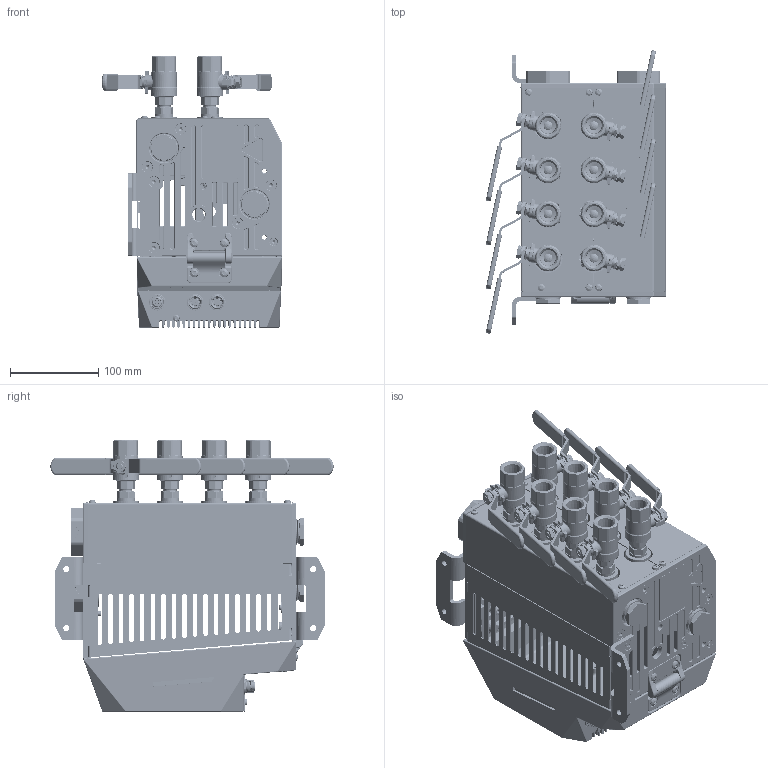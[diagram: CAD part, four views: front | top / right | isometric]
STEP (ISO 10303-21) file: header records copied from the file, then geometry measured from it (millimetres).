
FILE_DESCRIPTION (( 'STEP AP214' ), '1' );
FILE_NAME ('HB-FX1XXR61-4-ZH.STEP', '2026-03-02T08:57:19', ( '' ), ( '' ), 'SwSTEP 2.0', 'SolidWorks 2023', '' );
FILE_SCHEMA (( 'AUTOMOTIVE_DESIGN' ));
Length unit declared in the file: millimetre
Products named in the file (26): Kopie von K8534-Hülle Teil2^K8534-Hülle kompl_4-Fach HB-Therm; Kopie von 29796-X^Kopie von K8534-Hülle Teil2_K8534-Hülle kompl_29796-1; Kopie von 29714^Kopie von K8534-Hülle Teil2_K8534-Hülle kompl; Kopie von 29813-X^Kopie von K8534-Hülle Teil3_K8534-Hülle kompl_01-mit Beschriftung; 29857_00 - geschlossen; Kopie von 29733-X^Kopie von K8534-Hülle Teil2_K8534-Hülle kompl; Kopie von 29819-X^Kopie von K8534-Hülle Teil3_K8534-Hülle kompl_01-mit Beschriftung; HB-FX1XXR61-4-ZH; Kopie von K8534-Hülle RECHTS^Kopie von K8534-Hülle Teil3_K8534-Hülle kompl_4-FACH RECHTS; 29788_Geschlossen; Kopie von K8534-Hülle Teil3^K8534-Hülle kompl_4-FACH-RECHTS HB-Therm; Kopie von Kopie von 29730^Kopie von K8534-Hülle Teil2_K8534-Hülle kompl_00; Kopie von 28862^Kopie von K8534-Hülle Teil2_K8534-Hülle kompl_M5x12; Kopie von 28706^Kopie von K8534-Hülle Teil2_K8534-Hülle kompl_180°; Kopie von 29827^Kopie von K8534-Hülle Teil2_K8534-Hülle kompl; Kopie von B3061620^Kopie von K8534-Hülle Teil2_K8534-Hülle kompl_M4x12; Kopie von 29734-X^Kopie von K8534-Hülle Teil3_K8534-Hülle kompl_00; Kopie von Kopie von 24568^Kopie von K8534-Hülle Teil3_K8534-Hülle kompl_00; KX508-2_1^Kopie von 28706_Kopie von K8534-Hülle Teil2_K8534-Hülle kompl; Kopie von 29824-X^Kopie von K8534-Hülle Teil3_K8534-Hülle kompl_00; Kopie (2) von B3061620^Kopie von K8534-Hülle Teil2_K8534-Hülle kompl_M4x12; 29669_00; KX508-2_2^Kopie von 28706_Kopie von K8534-Hülle Teil2_K8534-Hülle kompl; 29702_A15x1-A2; Kopie von 29730^Kopie von K8534-Hülle Teil3_K8534-Hülle kompl_00; KX508-2_3^Kopie von 28706_Kopie von K8534-Hülle Teil2_K8534-Hülle kompl
Assembly tree (43 placements, depth 4):
  HB-FX1XXR61-4-ZH
    Kopie von K8534-Hülle Teil3^K8534-Hülle kompl_4-FACH-RECHTS HB-Therm
      Kopie von 29734-X^Kopie von K8534-Hülle Teil3_K8534-Hülle kompl_00  x2
      Kopie von 29730^Kopie von K8534-Hülle Teil3_K8534-Hülle kompl_00  x4
      Kopie von K8534-Hülle RECHTS^Kopie von K8534-Hülle Teil3_K8534-Hülle kompl_4-FACH RECHTS
      Kopie von 29819-X^Kopie von K8534-Hülle Teil3_K8534-Hülle kompl_01-mit Beschriftung
      Kopie von 29813-X^Kopie von K8534-Hülle Teil3_K8534-Hülle kompl_01-mit Beschriftung
      Kopie von 29824-X^Kopie von K8534-Hülle Teil3_K8534-Hülle kompl_00
      Kopie von Kopie von 24568^Kopie von K8534-Hülle Teil3_K8534-Hülle kompl_00  x2
    Kopie von K8534-Hülle Teil2^K8534-Hülle kompl_4-Fach HB-Therm
      Kopie von 29827^Kopie von K8534-Hülle Teil2_K8534-Hülle kompl  x2
      Kopie von 29714^Kopie von K8534-Hülle Teil2_K8534-Hülle kompl
      Kopie von 28862^Kopie von K8534-Hülle Teil2_K8534-Hülle kompl_M5x12  x4
      Kopie von 28706^Kopie von K8534-Hülle Teil2_K8534-Hülle kompl_180°
        KX508-2_1^Kopie von 28706_Kopie von K8534-Hülle Teil2_K8534-Hülle kompl
        KX508-2_2^Kopie von 28706_Kopie von K8534-Hülle Teil2_K8534-Hülle kompl
        KX508-2_3^Kopie von 28706_Kopie von K8534-Hülle Teil2_K8534-Hülle kompl
      Kopie von B3061620^Kopie von K8534-Hülle Teil2_K8534-Hülle kompl_M4x12  x2
      Kopie von 29796-X^Kopie von K8534-Hülle Teil2_K8534-Hülle kompl_29796-1
      Kopie von Kopie von 29730^Kopie von K8534-Hülle Teil2_K8534-Hülle kompl_00  x2
      Kopie von 29733-X^Kopie von K8534-Hülle Teil2_K8534-Hülle kompl
      Kopie (2) von B3061620^Kopie von K8534-Hülle Teil2_K8534-Hülle kompl_M4x12
    29857_00 - geschlossen  x8
      29788_Geschlossen
      29669_00
      29702_A15x1-A2
Bounding box: 204.11 x 321.24 x 307.8 mm (x, y, z)
Volume: 1445204.1 mm3; surface area: 912184.5 mm2
Topology: 211 solids, 212 shells, 10074 faces, 24268 edges, 14772 vertices
Faces by surface type: plane 3445, cylinder 2953, torus 1133, cone 1118, bspline 1107, sphere 318
Full cylindrical faces by diameter (mm): 2.5 x9, 3.3 x22, 3.6 x1, 4 x16, 4.2 x5, 4.5 x6, 4.6 x1, 4.9 x6, 5 x36, 5.2 x4, 6 x14, 6.6 x12, 6.8 x2, 7 x18, 7.8 x2, 8 x48, 8.013 x8, 8.3 x1, 8.4 x4, 9.4 x1, 10 x17, 10.2 x1, 10.3 x1, 10.5 x32, 10.55 x1, 10.8 x2, 11.04 x8, 12 x26, 12.1 x10, 12.3 x8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
Entity records: 337684 total; most frequent: CARTESIAN_POINT 93813, ORIENTED_EDGE 34082, DIRECTION 32846, EDGE_CURVE 17041, AXIS2_PLACEMENT_3D 12632, VERTEX_POINT 10724, EDGE_LOOP 8661, FACE_OUTER_BOUND 7761
